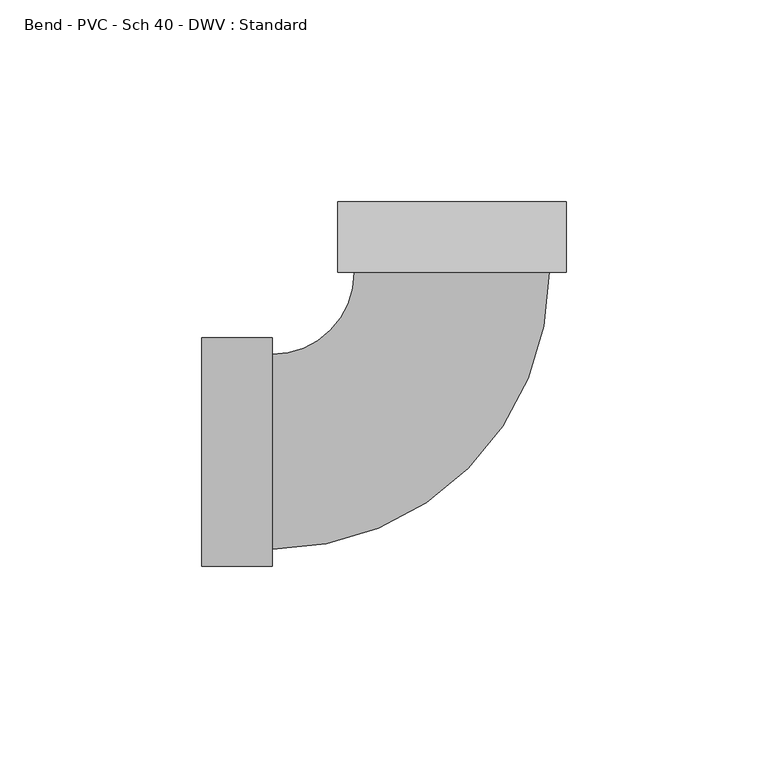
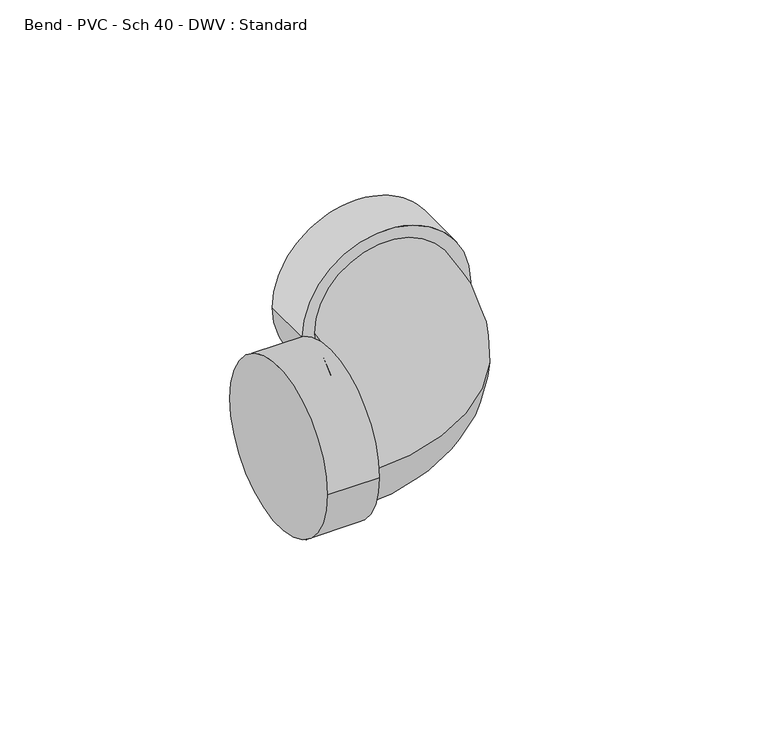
"""IFC4 building model written with IfcOpenShell, lengths in millimetres: pipe fitting geometry, Bend - PVC - Sch 40 - DWV : Standard."""

from ifc_helpers import new_model, si_unit, point, frame, origin, place, context, project, spatial, circle_curve, ellipse_curve, trimmed, source, transform, mapped, element, save
from ifc_brep_helpers import plane_surface, cylinder_surface, revolved_surface, advanced_brep


def bend_pvc_sch_40_dwv_standard_6bc66ede(model_context):
    return source(origin(), model_context, "Body", "AdvancedBrep", [
        advanced_brep(
        [(-61.8998, -28.2829, 0.0), (-61.8998, 28.2829, 0.0), (-44.45, -28.2829, 0.0), (-44.45, 28.2829, 0.0), (-44.45, -24.13, 0.0), (-44.45, 24.13, 0.0), (-24.1300344, 44.4499813, 0.0), (24.1299656, 44.4500187, 0.0), (28.2828656, 44.4500219, 0.0), (-28.2829344, 44.4499781, 0.0), (28.2828521, 61.8998219, 0.0), (-28.2829479, 61.8997781, 0.0)],
        [
            (0, 1, circle_curve(frame((-61.8998, 0.0, 0.0), z_axis=(-1.0, 0.0, 0.0), x_axis=(0.0, 1.0, 0.0)), 28.2829)),
            (1, 0, circle_curve(frame((-61.8998, 0.0, 0.0), z_axis=(-1.0, 0.0, 0.0), x_axis=(0.0, 1.0, 0.0)), 28.2829)),
            (2, 3, circle_curve(frame((-44.45, 0.0, 0.0), z_axis=(1.0, 0.0, 0.0), x_axis=(0.0, 1.0, 0.0)), 28.2829)),
            (3, 2, circle_curve(frame((-44.45, 0.0, 0.0), z_axis=(1.0, 0.0, 0.0), x_axis=(0.0, 1.0, 0.0)), 28.2829)),
            (4, 5, circle_curve(frame((-44.45, 0.0, 0.0), z_axis=(-1.0, 0.0, 0.0), x_axis=(0.0, 1.0, 0.0)), 24.13)),
            (5, 4, circle_curve(frame((-44.45, 0.0, 0.0), z_axis=(-1.0, 0.0, 0.0), x_axis=(0.0, 1.0, 0.0)), 24.13)),
            (0, 2),
            (3, 1),
            (6, 5, circle_curve(frame((-44.45, 44.4499656, 0.0), z_axis=(0.0, 0.0, -1.0), x_axis=(0.0, -1.0, 0.0)), 20.3199656)),
            (4, 7, circle_curve(frame((-44.45, 44.4499656, 0.0), z_axis=(0.0, 0.0, 1.0), x_axis=(0.0, -1.0, 0.0)), 68.5799656)),
            (7, 6, circle_curve(frame((-3.44e-05, 44.45, 0.0), z_axis=(7.732986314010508e-07, -0.999999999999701, 0.0), x_axis=(-0.999999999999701, -7.732986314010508e-07, 0.0)), 24.13)),
            (6, 7, circle_curve(frame((-3.44e-05, 44.45, 0.0), z_axis=(7.732986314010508e-07, -0.999999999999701, 0.0), x_axis=(-0.999999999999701, -7.732986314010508e-07, 0.0)), 24.13)),
            (8, 9, circle_curve(frame((-3.44e-05, 44.45, 0.0), z_axis=(7.732986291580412e-07, -0.999999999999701, 0.0), x_axis=(-0.999999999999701, -7.732986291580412e-07, 0.0)), 28.2829)),
            (9, 8, circle_curve(frame((-3.44e-05, 44.45, 0.0), z_axis=(7.732986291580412e-07, -0.999999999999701, 0.0), x_axis=(-0.999999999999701, -7.732986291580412e-07, 0.0)), 28.2829)),
            (10, 11, circle_curve(frame((-4.79e-05, 61.8998, 0.0), z_axis=(-7.732986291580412e-07, 0.999999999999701, 0.0), x_axis=(-0.999999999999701, -7.732986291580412e-07, 0.0)), 28.2829)),
            (11, 10, circle_curve(frame((-4.79e-05, 61.8998, 0.0), z_axis=(-7.732986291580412e-07, 0.999999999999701, 0.0), x_axis=(-0.999999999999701, -7.732986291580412e-07, 0.0)), 28.2829)),
            (8, 10),
            (11, 9),
        ],
        [
            plane_surface(frame((-61.8998, 0.0, 0.0), z_axis=(-1.0, 0.0, 0.0), x_axis=(0.0, 0.0, 1.0))),
            plane_surface(frame((-44.45, 0.0, 0.0), z_axis=(1.0, 0.0, 0.0), x_axis=(0.0, 0.0, 1.0))),
            cylinder_surface(frame((-61.8998, 0.0, 0.0), z_axis=(-1.0, 0.0, 0.0), x_axis=(0.0, 1.0, 0.0)), 28.2829),
            revolved_surface(trimmed(ellipse_curve(frame((-44.45, 0.0, 0.0), z_axis=(-1.0, 0.0, 0.0), x_axis=(0.0, 1.0, 0.0)), 24.13, 24.13), [point((-44.45, -24.13, 0.0))], [point((-44.45, 24.13, 0.0))], True, "CARTESIAN"), (-44.45, 44.4499656, 0.0), (0.0, 0.0, 1.0)),
            revolved_surface(trimmed(ellipse_curve(frame((-44.45, 0.0, 0.0), z_axis=(-1.0, 0.0, 0.0), x_axis=(0.0, 1.0, 0.0)), 24.13, 24.13), [point((-44.45, 24.13, 0.0))], [point((-44.45, -24.13, 0.0))], True, "CARTESIAN"), (-44.45, 44.4499656, 0.0), (0.0, 0.0, 1.0)),
            plane_surface(frame((-3.44e-05, 44.45, 0.0), z_axis=(7.732986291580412e-07, -0.999999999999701, 0.0), x_axis=(0.0, 0.0, 1.0))),
            plane_surface(frame((-4.79e-05, 61.8998, 0.0), z_axis=(-7.732986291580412e-07, 0.999999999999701, 0.0), x_axis=(0.0, 0.0, 1.0))),
            cylinder_surface(frame((-3.44e-05, 44.45, 0.0), z_axis=(7.732986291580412e-07, -0.999999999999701, 0.0), x_axis=(-0.999999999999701, -7.732986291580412e-07, 0.0)), 28.2829),
        ],
        [
            (0, [[1, 2]]),
            (1, [[3, 4], [5, 6]]),
            (2, [[-1, 7, -4, 8]]),
            (2, [[-2, -8, -3, -7]]),
            (3, [[9, -5, 10, 11]]),
            (4, [[-9, 12, -10, -6]]),
            (5, [[13, 14], [-11, -12]]),
            (6, [[15, 16]]),
            (7, [[-13, 17, -16, 18]]),
            (7, [[-14, -18, -15, -17]]),
        ],
    ),
    ])


if __name__ == "__main__":
    model = new_model("IFC4")
    model_context = context("Model", 3, world=origin())
    ifc_project = project(units=[si_unit("LENGTHUNIT", "METRE", prefix="MILLI")], contexts=[model_context])
    site = spatial("IfcSite", under=ifc_project)
    building = spatial("IfcBuilding", under=site)
    placement = place(None, origin())
    bend_pvc_sch_40_dwv_standard_shape = bend_pvc_sch_40_dwv_standard_6bc66ede(model_context)
    element("IfcPipeFitting", 1, ObjectType="Bend - PVC - Sch 40 - DWV : Standard", at=placement, inside=building, context=model_context, shape_type="MappedRepresentation", body=[
        mapped(bend_pvc_sch_40_dwv_standard_shape, transform((0.0, 0.0, 0.0), x_axis=(1.0, 0.0, 0.0), y_axis=(0.0, 1.0, 0.0), z_axis=(0.0, 0.0, 1.0))),
    ])
    save(model, "model.ifc")
